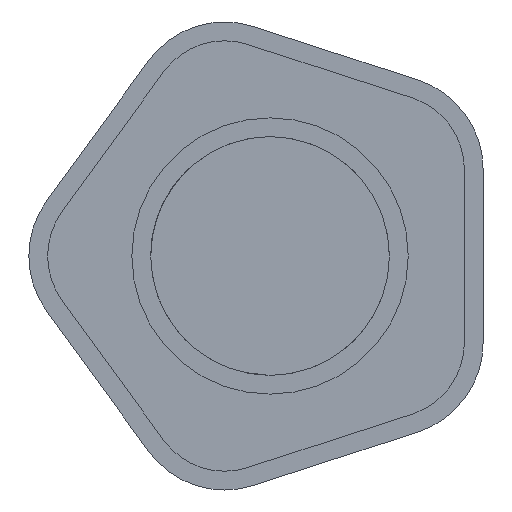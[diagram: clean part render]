
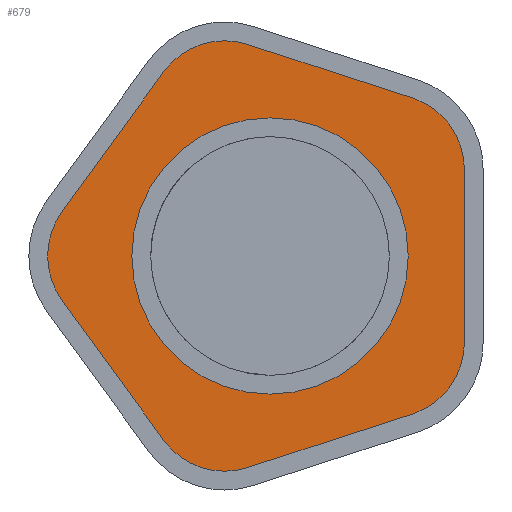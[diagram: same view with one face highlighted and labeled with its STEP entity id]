
A CAD part, front view. The second image highlights one B-rep face of the part: STEP entity #679.
In plain terms, the highlighted planar face has unit normal (0, -1, 0).
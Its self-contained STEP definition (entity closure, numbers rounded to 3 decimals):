
#21=FACE_BOUND('',#227,.T.);
#31=PLANE('',#760);
#71=LINE('',#1126,#122);
#72=LINE('',#1130,#123);
#73=LINE('',#1134,#124);
#74=LINE('',#1138,#125);
#75=LINE('',#1142,#126);
#122=VECTOR('',#928,10.);
#123=VECTOR('',#931,10.);
#124=VECTOR('',#934,10.);
#125=VECTOR('',#937,10.);
#126=VECTOR('',#940,10.);
#183=FACE_OUTER_BOUND('',#226,.T.);
#226=EDGE_LOOP('',(#553,#554,#555,#556,#557,#558,#559,#560,#561,#562));
#227=EDGE_LOOP('',(#563));
#271=CIRCLE('',#746,14.7);
#279=CIRCLE('',#761,8.);
#280=CIRCLE('',#762,8.);
#281=CIRCLE('',#763,8.);
#282=CIRCLE('',#764,8.);
#283=CIRCLE('',#765,8.);
#314=VERTEX_POINT('',#1082);
#329=VERTEX_POINT('',#1124);
#330=VERTEX_POINT('',#1125);
#331=VERTEX_POINT('',#1127);
#332=VERTEX_POINT('',#1129);
#333=VERTEX_POINT('',#1131);
#334=VERTEX_POINT('',#1133);
#335=VERTEX_POINT('',#1135);
#336=VERTEX_POINT('',#1137);
#337=VERTEX_POINT('',#1139);
#338=VERTEX_POINT('',#1141);
#389=EDGE_CURVE('',#314,#314,#271,.T.);
#409=EDGE_CURVE('',#329,#330,#71,.F.);
#410=EDGE_CURVE('',#331,#329,#279,.F.);
#411=EDGE_CURVE('',#332,#331,#72,.F.);
#412=EDGE_CURVE('',#333,#332,#280,.F.);
#413=EDGE_CURVE('',#334,#333,#73,.F.);
#414=EDGE_CURVE('',#335,#334,#281,.F.);
#415=EDGE_CURVE('',#336,#335,#74,.F.);
#416=EDGE_CURVE('',#337,#336,#282,.F.);
#417=EDGE_CURVE('',#338,#337,#75,.F.);
#418=EDGE_CURVE('',#330,#338,#283,.F.);
#553=ORIENTED_EDGE('',*,*,#409,.F.);
#554=ORIENTED_EDGE('',*,*,#410,.F.);
#555=ORIENTED_EDGE('',*,*,#411,.F.);
#556=ORIENTED_EDGE('',*,*,#412,.F.);
#557=ORIENTED_EDGE('',*,*,#413,.F.);
#558=ORIENTED_EDGE('',*,*,#414,.F.);
#559=ORIENTED_EDGE('',*,*,#415,.F.);
#560=ORIENTED_EDGE('',*,*,#416,.F.);
#561=ORIENTED_EDGE('',*,*,#417,.F.);
#562=ORIENTED_EDGE('',*,*,#418,.F.);
#563=ORIENTED_EDGE('',*,*,#389,.T.);
#679=ADVANCED_FACE('',(#183,#21),#31,.F.);
#746=AXIS2_PLACEMENT_3D('',#1083,#886,#887);
#760=AXIS2_PLACEMENT_3D('',#1123,#926,#927);
#761=AXIS2_PLACEMENT_3D('',#1128,#929,#930);
#762=AXIS2_PLACEMENT_3D('',#1132,#932,#933);
#763=AXIS2_PLACEMENT_3D('',#1136,#935,#936);
#764=AXIS2_PLACEMENT_3D('',#1140,#938,#939);
#765=AXIS2_PLACEMENT_3D('',#1143,#941,#942);
#886=DIRECTION('center_axis',(0.,1.,0.));
#887=DIRECTION('ref_axis',(-1.,0.,0.));
#926=DIRECTION('center_axis',(0.,1.,0.));
#927=DIRECTION('ref_axis',(0.,0.,1.));
#928=DIRECTION('',(-0.951,0.,0.309));
#929=DIRECTION('center_axis',(0.,-1.,0.));
#930=DIRECTION('ref_axis',(-0.809,0.,0.588));
#931=DIRECTION('',(-0.588,0.,-0.809));
#932=DIRECTION('center_axis',(0.,-1.,0.));
#933=DIRECTION('ref_axis',(-0.809,0.,-0.588));
#934=DIRECTION('',(0.588,0.,-0.809));
#935=DIRECTION('center_axis',(0.,-1.,0.));
#936=DIRECTION('ref_axis',(0.309,0.,-0.951));
#937=DIRECTION('',(0.951,0.,0.309));
#938=DIRECTION('center_axis',(0.,-1.,0.));
#939=DIRECTION('ref_axis',(1.,0.,0.));
#940=DIRECTION('',(0.,0.,1.));
#941=DIRECTION('center_axis',(0.,-1.,0.));
#942=DIRECTION('ref_axis',(0.309,0.,0.951));
#1082=CARTESIAN_POINT('',(14.7,23.,0.));
#1083=CARTESIAN_POINT('Origin',(0.,23.,0.));
#1123=CARTESIAN_POINT('Origin',(0.,23.,0.));
#1124=CARTESIAN_POINT('',(-2.367,23.,22.502));
#1125=CARTESIAN_POINT('',(15.141,23.,16.813));
#1126=CARTESIAN_POINT('',(2.01,23.,21.08));
#1127=CARTESIAN_POINT('',(-11.311,23.,19.596));
#1128=CARTESIAN_POINT('Origin',(-4.839,23.,14.893));
#1129=CARTESIAN_POINT('',(-22.132,23.,4.702));
#1130=CARTESIAN_POINT('',(-19.427,23.,8.426));
#1131=CARTESIAN_POINT('',(-22.132,23.,-4.702));
#1132=CARTESIAN_POINT('Origin',(-15.66,23.,0.));
#1133=CARTESIAN_POINT('',(-11.311,23.,-19.596));
#1134=CARTESIAN_POINT('',(-14.016,23.,-15.872));
#1135=CARTESIAN_POINT('',(-2.367,23.,-22.502));
#1136=CARTESIAN_POINT('Origin',(-4.839,23.,-14.893));
#1137=CARTESIAN_POINT('',(15.141,23.,-16.813));
#1138=CARTESIAN_POINT('',(10.764,23.,-18.235));
#1139=CARTESIAN_POINT('',(20.669,23.,-9.205));
#1140=CARTESIAN_POINT('Origin',(12.669,23.,-9.205));
#1141=CARTESIAN_POINT('',(20.669,23.,9.205));
#1142=CARTESIAN_POINT('',(20.669,23.,4.602));
#1143=CARTESIAN_POINT('Origin',(12.669,23.,9.205));
